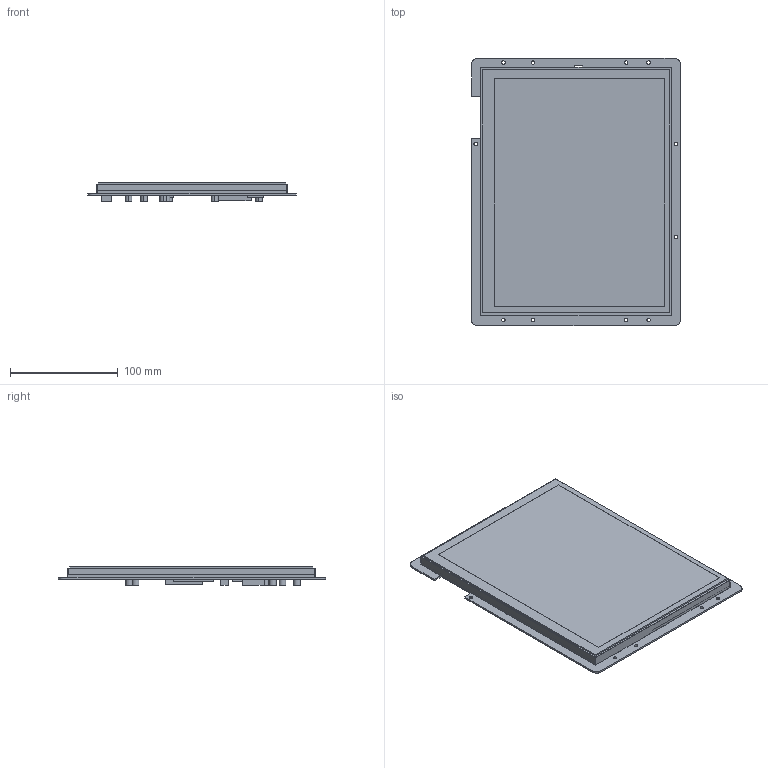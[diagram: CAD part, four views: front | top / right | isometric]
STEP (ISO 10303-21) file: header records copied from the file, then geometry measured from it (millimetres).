
FILE_DESCRIPTION((''),'2;1');
FILE_NAME('DMG10768K104-03WTR','2022-02-17T',('Administrator'),(''),'PRO/ENGINEER BY PARAMETRIC TECHNOLOGY CORPORATION, 2011310','PRO/ENGINEER BY PARAMETRIC TECHNOLOGY CORPORATION, 2011310','');
FILE_SCHEMA(('CONFIG_CONTROL_DESIGN','SHAPE_APPEARANCE_LAYERS_GROUPS'));
Length unit declared in the file: millimetre
Products named in the file (1): DMG10768K104-03WTR
Bounding box: 193.67 x 247.78 x 17.3 mm (x, y, z)
Volume: 369882.1 mm3; surface area: 266729 mm2
Topology: 1 solids, 2 shells, 201 faces, 596 edges, 380 vertices
Faces by surface type: plane 157, cylinder 44
Entity records: 8078 total; most frequent: ORIENTED_EDGE 1192, CARTESIAN_POINT 1177, DIRECTION 1086, EDGE_CURVE 596, VECTOR 508, LINE 508, VERTEX_POINT 380, AXIS2_PLACEMENT_3D 289
